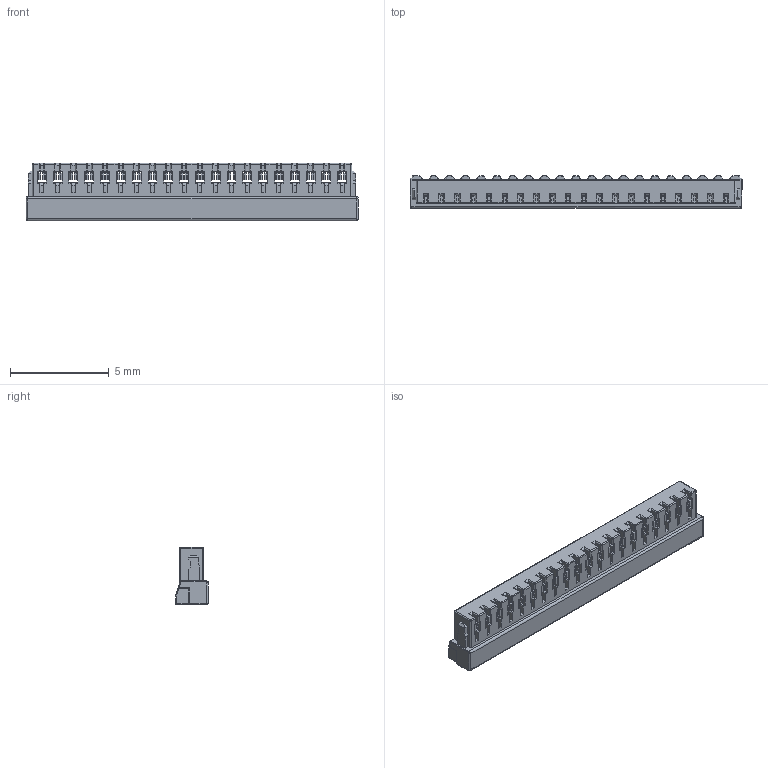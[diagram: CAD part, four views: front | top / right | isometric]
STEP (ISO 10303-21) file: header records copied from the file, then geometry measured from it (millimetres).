
FILE_DESCRIPTION((''),'2;1');
FILE_NAME('SCT0800HI-20','2023-03-26T10:25:52',('Administrator'),(''),'CREO PARAMETRIC BY PTC INC, 2018050','CREO PARAMETRIC BY PTC INC, 2018050','');
FILE_SCHEMA(('CONFIG_CONTROL_DESIGN'));
Products named in the file (1): SCT0800HI-20
Bounding box: 16.8 x 1.65 x 2.9 mm (x, y, z)
Surface area: 321.8 mm2 (no closed solid volume)
Topology: 0 solids, 1 shells, 3467 faces, 10143 edges, 6429 vertices
Faces by surface type: plane 2344, cylinder 1017, sphere 100, bspline 5, torus 1
Entity records: 113918 total; most frequent: CARTESIAN_POINT 21046, ORIENTED_EDGE 20103, DIRECTION 18854, EDGE_CURVE 10095, VECTOR 7920, LINE 7920, VERTEX_POINT 6429, AXIS2_PLACEMENT_3D 5467
